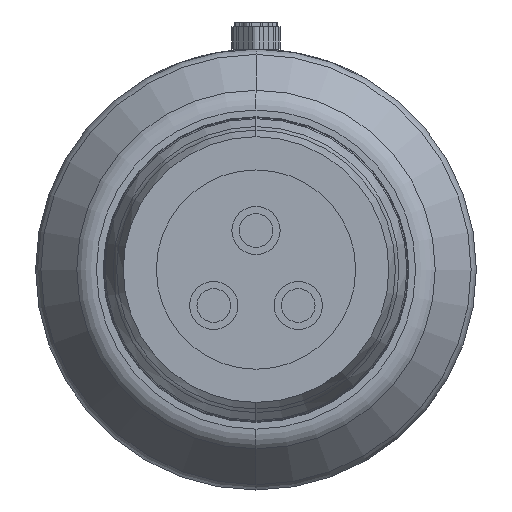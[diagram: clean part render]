
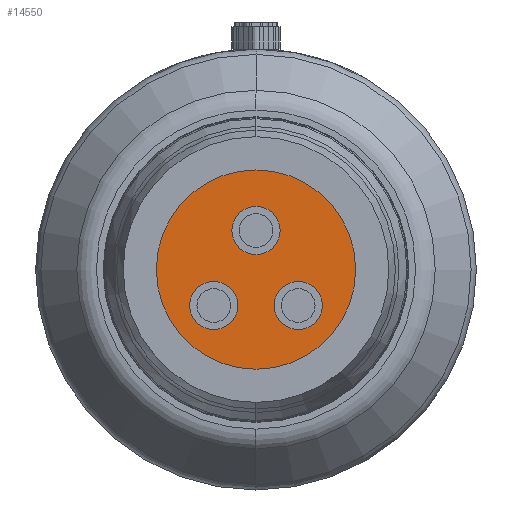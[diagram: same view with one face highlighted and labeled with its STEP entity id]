
A CAD part, left-side view. The second image highlights one B-rep face of the part: STEP entity #14550.
In plain terms, the highlighted planar face has unit normal (-1, 0, 0) as drawn and (0, 0, 1) by its records, which use the part's own axes.
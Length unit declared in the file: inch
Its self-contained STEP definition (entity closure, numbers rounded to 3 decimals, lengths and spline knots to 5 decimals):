
#10671=CARTESIAN_POINT('',(0.,0.,0.));
#10672=DIRECTION('',(0.,0.,1.));
#10673=DIRECTION('',(0.,-1.,0.));
#10674=AXIS2_PLACEMENT_3D('',#10671,#10672,#10673);
#10676=CARTESIAN_POINT('',(0.,0.,0.));
#10677=DIRECTION('',(0.,0.,1.));
#10678=DIRECTION('',(0.,1.,0.));
#10679=AXIS2_PLACEMENT_3D('',#10676,#10677,#10678);
#10681=CARTESIAN_POINT('',(0.,0.03236,0.));
#10682=DIRECTION('',(0.,0.,1.));
#10683=DIRECTION('',(1.,0.,0.));
#10684=AXIS2_PLACEMENT_3D('',#10681,#10682,#10683);
#10686=CARTESIAN_POINT('',(0.,0.03236,0.));
#10687=DIRECTION('',(0.,0.,1.));
#10688=DIRECTION('',(-1.,0.,0.));
#10689=AXIS2_PLACEMENT_3D('',#10686,#10687,#10688);
#10691=CARTESIAN_POINT('',(0.035,-0.02973,0.));
#10692=DIRECTION('',(0.,0.,1.));
#10693=DIRECTION('',(1.,0.,0.));
#10694=AXIS2_PLACEMENT_3D('',#10691,#10692,#10693);
#10696=CARTESIAN_POINT('',(0.035,-0.02973,0.));
#10697=DIRECTION('',(0.,0.,1.));
#10698=DIRECTION('',(-1.,0.,0.));
#10699=AXIS2_PLACEMENT_3D('',#10696,#10697,#10698);
#10701=CARTESIAN_POINT('',(-0.035,-0.02973,0.));
#10702=DIRECTION('',(0.,0.,1.));
#10703=DIRECTION('',(1.,0.,0.));
#10704=AXIS2_PLACEMENT_3D('',#10701,#10702,#10703);
#10706=CARTESIAN_POINT('',(-0.035,-0.02973,0.));
#10707=DIRECTION('',(0.,0.,1.));
#10708=DIRECTION('',(-1.,0.,0.));
#10709=AXIS2_PLACEMENT_3D('',#10706,#10707,#10708);
#12954=CARTESIAN_POINT('',(0.,-0.0825,0.));
#12955=CARTESIAN_POINT('',(0.,0.0825,0.));
#12956=VERTEX_POINT('',#12954);
#12957=VERTEX_POINT('',#12955);
#13010=CARTESIAN_POINT('',(0.02,0.03236,0.));
#13011=CARTESIAN_POINT('',(-0.02,0.03236,0.));
#13012=VERTEX_POINT('',#13010);
#13013=VERTEX_POINT('',#13011);
#13014=CARTESIAN_POINT('',(0.055,-0.02973,0.));
#13015=CARTESIAN_POINT('',(0.015,-0.02973,0.));
#13016=VERTEX_POINT('',#13014);
#13017=VERTEX_POINT('',#13015);
#13018=CARTESIAN_POINT('',(-0.015,-0.02973,0.));
#13019=CARTESIAN_POINT('',(-0.055,-0.02973,0.));
#13020=VERTEX_POINT('',#13018);
#13021=VERTEX_POINT('',#13019);
#14523=CARTESIAN_POINT('',(0.,0.,0.));
#14524=DIRECTION('',(0.,0.,1.));
#14525=DIRECTION('',(0.,-1.,0.));
#14526=AXIS2_PLACEMENT_3D('',#14523,#14524,#14525);
#14527=PLANE('',#14526);
#14528=ORIENTED_EDGE('',*,*,#14503,.F.);
#14529=ORIENTED_EDGE('',*,*,#14517,.F.);
#14530=EDGE_LOOP('',(#14528,#14529));
#14531=FACE_OUTER_BOUND('',#14530,.F.);
#14533=ORIENTED_EDGE('',*,*,#14532,.T.);
#14535=ORIENTED_EDGE('',*,*,#14534,.T.);
#14536=EDGE_LOOP('',(#14533,#14535));
#14537=FACE_BOUND('',#14536,.F.);
#14539=ORIENTED_EDGE('',*,*,#14538,.T.);
#14541=ORIENTED_EDGE('',*,*,#14540,.T.);
#14542=EDGE_LOOP('',(#14539,#14541));
#14543=FACE_BOUND('',#14542,.F.);
#14545=ORIENTED_EDGE('',*,*,#14544,.T.);
#14547=ORIENTED_EDGE('',*,*,#14546,.T.);
#14548=EDGE_LOOP('',(#14545,#14547));
#14549=FACE_BOUND('',#14548,.F.);
#14550=ADVANCED_FACE('',(#14531,#14537,#14543,#14549),#14527,.T.);
#10675=CIRCLE('',#10674,0.0825);
#10680=CIRCLE('',#10679,0.0825);
#10685=CIRCLE('',#10684,0.02);
#10690=CIRCLE('',#10689,0.02);
#10695=CIRCLE('',#10694,0.02);
#10700=CIRCLE('',#10699,0.02);
#10705=CIRCLE('',#10704,0.02);
#10710=CIRCLE('',#10709,0.02);
#14503=EDGE_CURVE('',#12956,#12957,#10675,.T.);
#14517=EDGE_CURVE('',#12957,#12956,#10680,.T.);
#14532=EDGE_CURVE('',#13012,#13013,#10685,.T.);
#14534=EDGE_CURVE('',#13013,#13012,#10690,.T.);
#14538=EDGE_CURVE('',#13016,#13017,#10695,.T.);
#14540=EDGE_CURVE('',#13017,#13016,#10700,.T.);
#14544=EDGE_CURVE('',#13020,#13021,#10705,.T.);
#14546=EDGE_CURVE('',#13021,#13020,#10710,.T.);
